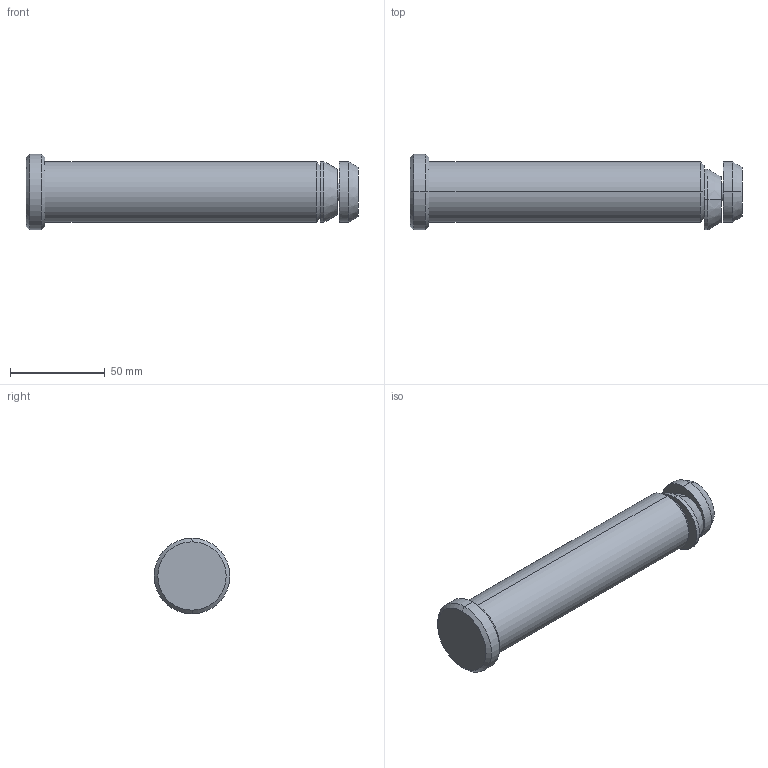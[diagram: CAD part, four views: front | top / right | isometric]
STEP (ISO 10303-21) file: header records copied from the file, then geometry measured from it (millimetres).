
FILE_DESCRIPTION(('CATIA V5 STEP Exchange'),'2;1');
FILE_NAME('C:\Users\Raffaele\Desktop\3D X SITO CF\PERNI -STAFFE SOLLEVAMENTO\395A\GSB_OILLESS_C10309032175\STEP-2.03\395A-032-175.stp','2019-07-02T14:16:42+00:00',('none'),('none'),'CATIA Version 5 Release 20 GA (IN-10)','CATIA V5 STEP AP203','none');
FILE_SCHEMA(('CONFIG_CONTROL_DESIGN'));
Length unit declared in the file: millimetre
Products named in the file (1): 395A-032-175
Bounding box: 175 x 40 x 40 mm (x, y, z)
Volume: 141873.7 mm3; surface area: 21337.6 mm2
Topology: 1 solids, 1 shells, 43 faces, 124 edges, 88 vertices
Faces by surface type: cylinder 20, plane 13, cone 10
Entity records: 1688 total; most frequent: CARTESIAN_POINT 532, ORIENTED_EDGE 248, DIRECTION 192, EDGE_CURVE 124, AXIS2_PLACEMENT_3D 112, VERTEX_POINT 88, CIRCLE 68, EDGE_LOOP 48
